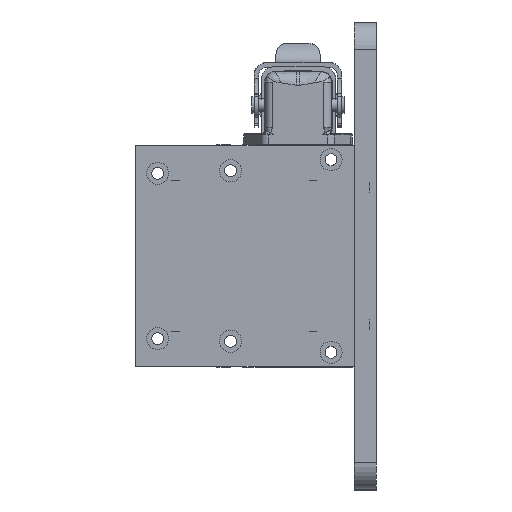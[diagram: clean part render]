
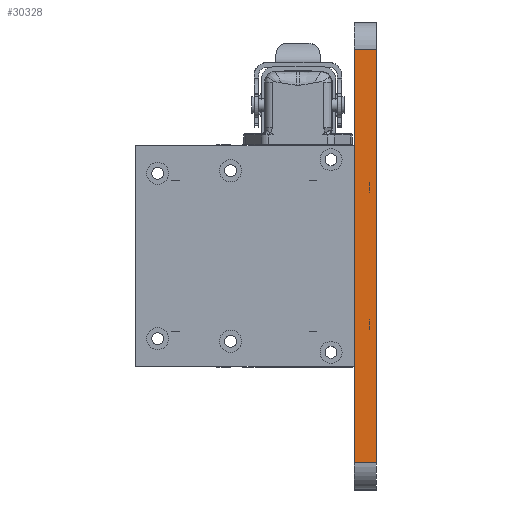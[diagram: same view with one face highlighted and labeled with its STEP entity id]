
A CAD part, left-side view. The second image highlights one B-rep face of the part: STEP entity #30328.
In plain terms, the highlighted planar face has unit normal (-1, 0, 0).
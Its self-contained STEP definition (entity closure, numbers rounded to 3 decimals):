
#231 = CARTESIAN_POINT ( 'NONE',  ( -354.434, 34.901, 505.576 ) ) ;
#1235 = VECTOR ( 'NONE', #4876, 1000. ) ;
#2075 = VERTEX_POINT ( 'NONE', #231 ) ;
#2724 = VECTOR ( 'NONE', #21149, 1000. ) ;
#3014 = DIRECTION ( 'NONE',  ( 1., 0., 0. ) ) ;
#3995 = CARTESIAN_POINT ( 'NONE',  ( -354.434, 26.901, 505.576 ) ) ;
#4876 = DIRECTION ( 'NONE',  ( 0., 0., -1. ) ) ;
#7262 = VECTOR ( 'NONE', #41273, 1000. ) ;
#8607 = EDGE_CURVE ( 'NONE', #2075, #43510, #30954, .T. ) ;
#10869 = LINE ( 'NONE', #46862, #2724 ) ;
#12964 = EDGE_LOOP ( 'NONE', ( #31556, #42344, #16107, #21019 ) ) ;
#13727 = FACE_OUTER_BOUND ( 'NONE', #12964, .T. ) ;
#15163 = EDGE_CURVE ( 'NONE', #39740, #25734, #10869, .T. ) ;
#15585 = AXIS2_PLACEMENT_3D ( 'NONE', #27126, #3014, #31163 ) ;
#16107 = ORIENTED_EDGE ( 'NONE', *, *, #15163, .F. ) ;
#19842 = CARTESIAN_POINT ( 'NONE',  ( -354.434, 34.901, 355.576 ) ) ;
#21019 = ORIENTED_EDGE ( 'NONE', *, *, #33754, .F. ) ;
#21149 = DIRECTION ( 'NONE',  ( 0., 1., 0. ) ) ;
#25734 = VERTEX_POINT ( 'NONE', #19842 ) ;
#27126 = CARTESIAN_POINT ( 'NONE',  ( -354.434, 34.901, 345.576 ) ) ;
#28810 = CARTESIAN_POINT ( 'NONE',  ( -354.434, 26.901, 345.576 ) ) ;
#29270 = LINE ( 'NONE', #32420, #49371 ) ;
#30328 = ADVANCED_FACE ( 'NONE', ( #13727 ), #35012, .F. ) ;
#30954 = LINE ( 'NONE', #47968, #7262 ) ;
#31163 = DIRECTION ( 'NONE',  ( 0., 0., -1. ) ) ;
#31556 = ORIENTED_EDGE ( 'NONE', *, *, #8607, .F. ) ;
#32420 = CARTESIAN_POINT ( 'NONE',  ( -354.434, 34.901, 345.576 ) ) ;
#33754 = EDGE_CURVE ( 'NONE', #43510, #39740, #42710, .T. ) ;
#35012 = PLANE ( 'NONE',  #15585 ) ;
#35728 = EDGE_CURVE ( 'NONE', #25734, #2075, #29270, .T. ) ;
#36379 = DIRECTION ( 'NONE',  ( 0., 0., 1. ) ) ;
#39740 = VERTEX_POINT ( 'NONE', #40714 ) ;
#40714 = CARTESIAN_POINT ( 'NONE',  ( -354.434, 26.901, 355.576 ) ) ;
#41273 = DIRECTION ( 'NONE',  ( 0., -1., 0. ) ) ;
#42344 = ORIENTED_EDGE ( 'NONE', *, *, #35728, .F. ) ;
#42710 = LINE ( 'NONE', #28810, #1235 ) ;
#43510 = VERTEX_POINT ( 'NONE', #3995 ) ;
#46862 = CARTESIAN_POINT ( 'NONE',  ( -354.434, 34.901, 355.576 ) ) ;
#47968 = CARTESIAN_POINT ( 'NONE',  ( -354.434, 34.901, 505.576 ) ) ;
#49371 = VECTOR ( 'NONE', #36379, 1000. ) ;
